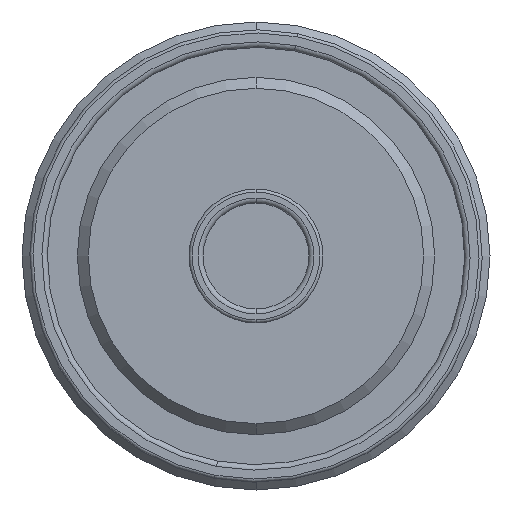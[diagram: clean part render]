
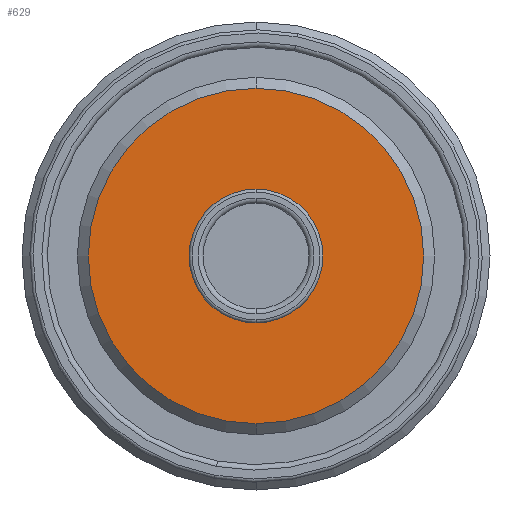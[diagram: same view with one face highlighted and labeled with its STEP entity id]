
A CAD part, front view. The second image highlights one B-rep face of the part: STEP entity #629.
In plain terms, the highlighted planar face has unit normal (0, -1, 0).
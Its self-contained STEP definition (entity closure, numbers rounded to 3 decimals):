
#187=PLANE('',#2748);
#225=FACE_BOUND('',#979,.T.);
#226=FACE_BOUND('',#980,.T.);
#629=ADVANCED_FACE('',(#225,#226),#187,.T.);
#979=EDGE_LOOP('',(#1524,#1525));
#980=EDGE_LOOP('',(#1526,#1527));
#1524=ORIENTED_EDGE('',*,*,#2218,.T.);
#1525=ORIENTED_EDGE('',*,*,#2150,.T.);
#1526=ORIENTED_EDGE('',*,*,#2146,.F.);
#1527=ORIENTED_EDGE('',*,*,#2219,.F.);
#1862=VERTEX_POINT('',#4279);
#1863=VERTEX_POINT('',#4280);
#1866=VERTEX_POINT('',#4288);
#1867=VERTEX_POINT('',#4289);
#2146=EDGE_CURVE('',#1862,#1863,#2409,.T.);
#2150=EDGE_CURVE('',#1866,#1867,#2411,.T.);
#2218=EDGE_CURVE('',#1867,#1866,#2433,.T.);
#2219=EDGE_CURVE('',#1863,#1862,#2434,.T.);
#2409=CIRCLE('',#2706,21.5);
#2411=CIRCLE('',#2709,8.58);
#2433=CIRCLE('',#2745,8.58);
#2434=CIRCLE('',#2747,21.5);
#2706=AXIS2_PLACEMENT_3D('',#4278,#3366,#3367);
#2709=AXIS2_PLACEMENT_3D('',#4287,#3374,#3375);
#2745=AXIS2_PLACEMENT_3D('',#4663,#3464,#3465);
#2747=AXIS2_PLACEMENT_3D('',#4665,#3468,#3469);
#2748=AXIS2_PLACEMENT_3D('',#4666,#3470,#3471);
#3366=DIRECTION('',(0.,1.,0.));
#3367=DIRECTION('',(0.,0.,1.));
#3374=DIRECTION('',(0.,1.,0.));
#3375=DIRECTION('',(0.,0.,1.));
#3464=DIRECTION('',(0.,1.,0.));
#3465=DIRECTION('',(0.,0.,1.));
#3468=DIRECTION('',(0.,1.,0.));
#3469=DIRECTION('',(0.,0.,1.));
#3470=DIRECTION('',(0.,-1.,0.));
#3471=DIRECTION('',(0.,0.,1.));
#4278=CARTESIAN_POINT('',(0.,-1.3,0.));
#4279=CARTESIAN_POINT('',(0.,-1.3,21.5));
#4280=CARTESIAN_POINT('',(0.,-1.3,-21.5));
#4287=CARTESIAN_POINT('',(0.,-1.3,0.));
#4288=CARTESIAN_POINT('',(0.,-1.3,-8.58));
#4289=CARTESIAN_POINT('',(0.,-1.3,8.58));
#4663=CARTESIAN_POINT('',(0.,-1.3,0.));
#4665=CARTESIAN_POINT('',(0.,-1.3,0.));
#4666=CARTESIAN_POINT('',(0.,-1.3,0.));
